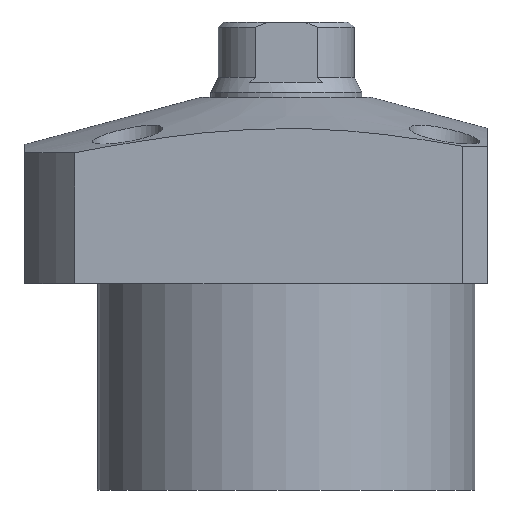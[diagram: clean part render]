
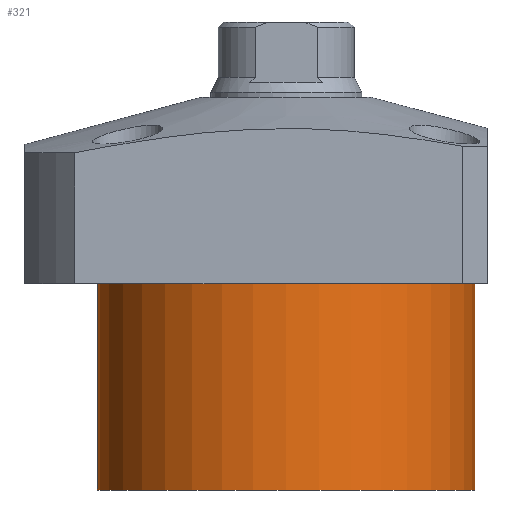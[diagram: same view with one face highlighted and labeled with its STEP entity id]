
A CAD part, front view. The second image highlights one B-rep face of the part: STEP entity #321.
In plain terms, the highlighted cylindrical face has radius 37.5 mm (diameter 75 mm), a partial arc.
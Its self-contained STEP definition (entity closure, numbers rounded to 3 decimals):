
#176 = CARTESIAN_POINT ( 'NONE',  ( -37.5, 0., -59.5 ) ) ;
#316 = CARTESIAN_POINT ( 'NONE',  ( 0., 0., -59.5 ) ) ;
#321 = ADVANCED_FACE ( 'NONE', ( #1169 ), #754, .T. ) ;
#336 = VERTEX_POINT ( 'NONE', #1847 ) ;
#439 = ORIENTED_EDGE ( 'NONE', *, *, #2163, .F. ) ;
#483 = DIRECTION ( 'NONE',  ( 0., 0., 1. ) ) ;
#581 = LINE ( 'NONE', #2453, #2352 ) ;
#676 = DIRECTION ( 'NONE',  ( 1., 0., 0. ) ) ;
#754 = CYLINDRICAL_SURFACE ( 'NONE', #1686, 37.5 ) ;
#815 = VERTEX_POINT ( 'NONE', #1478 ) ;
#1070 = EDGE_CURVE ( 'NONE', #1563, #336, #2052, .T. ) ;
#1115 = DIRECTION ( 'NONE',  ( 0., 0., -1. ) ) ;
#1117 = DIRECTION ( 'NONE',  ( 0., 0., -1. ) ) ;
#1153 = VERTEX_POINT ( 'NONE', #176 ) ;
#1169 = FACE_OUTER_BOUND ( 'NONE', #1681, .T. ) ;
#1241 = CIRCLE ( 'NONE', #1532, 37.5 ) ;
#1312 = DIRECTION ( 'NONE',  ( -1., 0., 0. ) ) ;
#1361 = AXIS2_PLACEMENT_3D ( 'NONE', #2497, #1115, #1521 ) ;
#1452 = VECTOR ( 'NONE', #483, 1000. ) ;
#1478 = CARTESIAN_POINT ( 'NONE',  ( -37.5, 0., -18.5 ) ) ;
#1521 = DIRECTION ( 'NONE',  ( 1., 0., 0. ) ) ;
#1532 = AXIS2_PLACEMENT_3D ( 'NONE', #316, #1117, #1312 ) ;
#1563 = VERTEX_POINT ( 'NONE', #1816 ) ;
#1628 = CIRCLE ( 'NONE', #1361, 37.5 ) ;
#1669 = CARTESIAN_POINT ( 'NONE',  ( 37.5, 0., -59.5 ) ) ;
#1681 = EDGE_LOOP ( 'NONE', ( #2547, #439, #1687, #1750 ) ) ;
#1686 = AXIS2_PLACEMENT_3D ( 'NONE', #1867, #1883, #676 ) ;
#1687 = ORIENTED_EDGE ( 'NONE', *, *, #1070, .T. ) ;
#1750 = ORIENTED_EDGE ( 'NONE', *, *, #2333, .T. ) ;
#1816 = CARTESIAN_POINT ( 'NONE',  ( 37.5, 0., -59.5 ) ) ;
#1847 = CARTESIAN_POINT ( 'NONE',  ( 37.5, 0., -18.5 ) ) ;
#1867 = CARTESIAN_POINT ( 'NONE',  ( 0., 0., -59.5 ) ) ;
#1883 = DIRECTION ( 'NONE',  ( 0., 0., 1. ) ) ;
#1933 = EDGE_CURVE ( 'NONE', #1153, #815, #581, .T. ) ;
#2052 = LINE ( 'NONE', #1669, #1452 ) ;
#2163 = EDGE_CURVE ( 'NONE', #1563, #1153, #1241, .T. ) ;
#2244 = DIRECTION ( 'NONE',  ( 0., 0., 1. ) ) ;
#2333 = EDGE_CURVE ( 'NONE', #336, #815, #1628, .T. ) ;
#2352 = VECTOR ( 'NONE', #2244, 1000. ) ;
#2453 = CARTESIAN_POINT ( 'NONE',  ( -37.5, 0., -59.5 ) ) ;
#2497 = CARTESIAN_POINT ( 'NONE',  ( 0., 0., -18.5 ) ) ;
#2547 = ORIENTED_EDGE ( 'NONE', *, *, #1933, .F. ) ;
